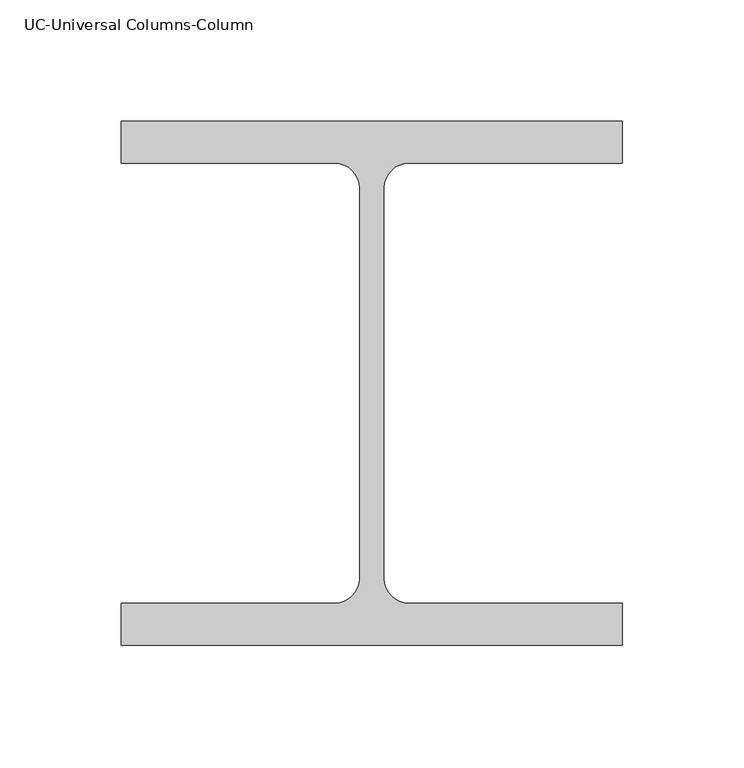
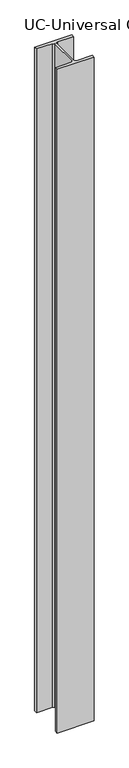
"""IFC4 building model written with IfcOpenShell, lengths in millimetres: column geometry."""

from ifc_helpers import new_model, si_unit, point, frame, frame_2d, origin, place, context, project, spatial, polyline, circle_curve, trimmed, segment, composite_curve, outline, extrude, source, transform, mapped, element, save


def uc_universal_columns_column_cef70da3(model_context):
    return source(origin(), model_context, "Body", "SweptSolid", [
        extrude(outline(composite_curve([segment(polyline([(103.2, 107.9), (103.2, 90.6), (15.2, 90.6)]), True, "CONTINUOUS"), segment(trimmed(circle_curve(frame_2d((15.2, 80.4)), 10.2), [point((15.2, 90.6))], [point((5.0, 80.4))], True, "CARTESIAN"), True, "CONTINUOUS"), segment(polyline([(5.0, 80.4), (5.0, -80.4)]), True, "CONTINUOUS"), segment(trimmed(circle_curve(frame_2d((15.2, -80.4)), 10.2), [point((5.0, -80.4))], [point((15.2, -90.6))], True, "CARTESIAN"), True, "CONTINUOUS"), segment(polyline([(15.2, -90.6), (103.2, -90.6), (103.2, -107.9), (-103.2, -107.9), (-103.2, -90.6), (-15.2, -90.6)]), True, "CONTINUOUS"), segment(trimmed(circle_curve(frame_2d((-15.2, -80.4)), 10.2), [point((-15.2, -90.6))], [point((-5.0, -80.4))], True, "CARTESIAN"), True, "CONTINUOUS"), segment(polyline([(-5.0, -80.4), (-5.0, 80.4)]), True, "CONTINUOUS"), segment(trimmed(circle_curve(frame_2d((-15.2, 80.4)), 10.2), [point((-5.0, 80.4))], [point((-15.2, 90.6))], True, "CARTESIAN"), True, "CONTINUOUS"), segment(polyline([(-15.2, 90.6), (-103.2, 90.6), (-103.2, 107.9), (103.2, 107.9)]), True, "CONTINUOUS")], self_intersect=False)), frame((0.0, 0.0, 4595.0), z_axis=(0.0, 0.0, 1.0), x_axis=(1.0, 0.0, 0.0)), (0.0, 0.0, 1.0), 3900.0),
    ])


if __name__ == "__main__":
    model = new_model("IFC4")
    model_context = context("Model", 3, world=origin())
    ifc_project = project(units=[si_unit("LENGTHUNIT", "METRE", prefix="MILLI")], contexts=[model_context])
    site = spatial("IfcSite", under=ifc_project)
    building = spatial("IfcBuilding", under=site)
    placement = place(None, origin())
    uc_universal_columns_column_shape = uc_universal_columns_column_cef70da3(model_context)
    element("IfcColumn", 1, ObjectType="UC-Universal Columns-Column : UC 8\" x 8\" x 3\"", at=placement, inside=building, context=model_context, shape_type="MappedRepresentation", body=[
        mapped(uc_universal_columns_column_shape, transform((0.0, 0.0, 0.0), x_axis=(1.0, 0.0, 0.0), y_axis=(0.0, 1.0, 0.0), z_axis=(0.0, 0.0, 1.0))),
    ])
    save(model, "model.ifc")
